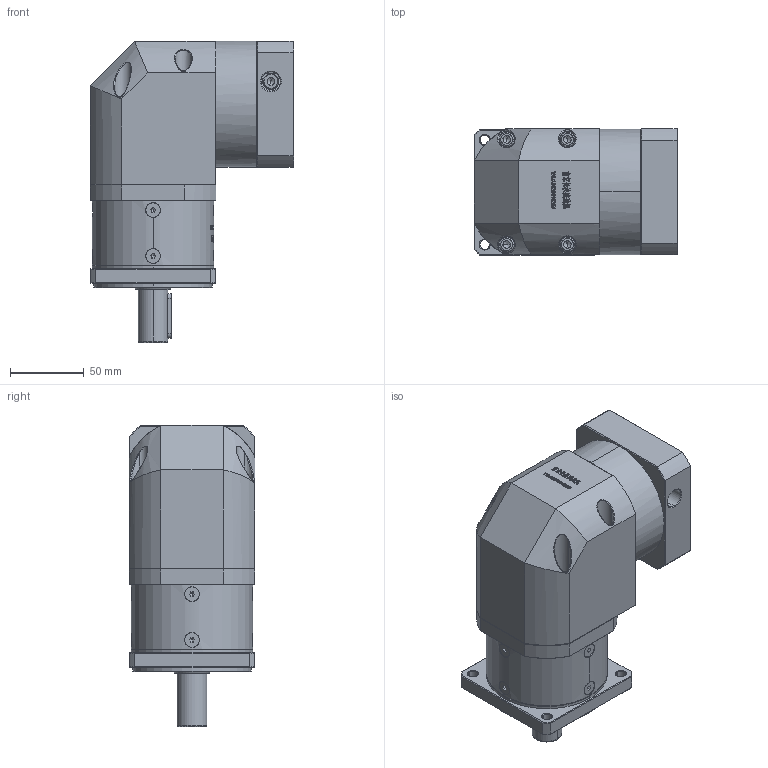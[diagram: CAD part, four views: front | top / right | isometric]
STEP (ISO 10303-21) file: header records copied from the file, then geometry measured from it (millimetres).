
FILE_DESCRIPTION (( 'STEP AP214' ), '1' );
FILE_NAME ('ZF80-D20-L1-14-60-75-M5.step', '2022-05-08T11:55:57', ( '' ), ( 'Microsoft' ), 'SwSTEP 2.0', 'SolidWorks 2016', '' );
FILE_SCHEMA (( 'AUTOMOTIVE_DESIGN' ));
Length unit declared in the file: millimetre
Products named in the file (1): ZF80-D20-L1-14-60-75-M5
Bounding box: 137.6 x 85 x 203.5 mm (x, y, z)
Volume: 1261302.2 mm3; surface area: 134604.3 mm2
Topology: 13 solids, 13 shells, 3095 faces, 8135 edges, 5187 vertices
Faces by surface type: plane 1638, bspline 624, cylinder 466, cone 353, torus 14
Entity records: 168139 total; most frequent: CARTESIAN_POINT 63626, ORIENTED_EDGE 16178, DIRECTION 12131, EDGE_CURVE 8089, VERTEX_POINT 5187, LINE 5043, VECTOR 5043, AXIS2_PLACEMENT_3D 3544
